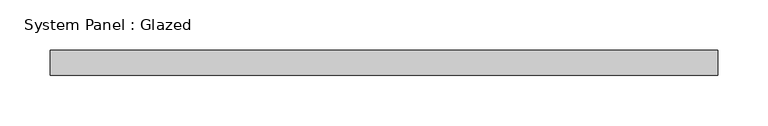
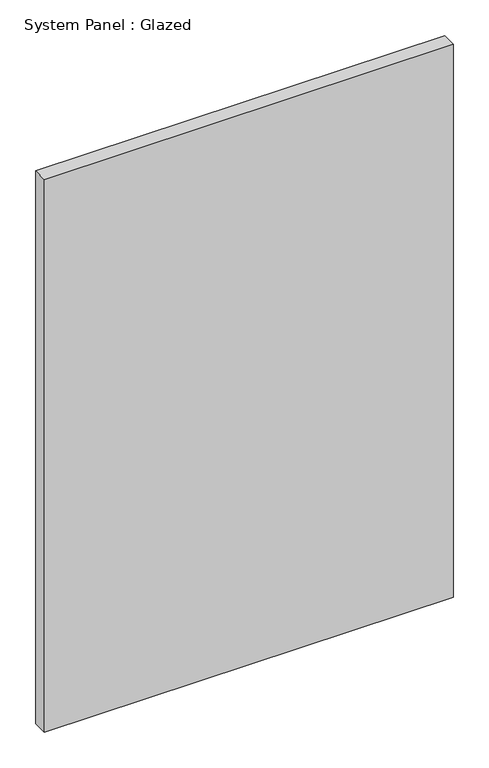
"""IFC4 building model written with IfcOpenShell, lengths in millimetres: plate geometry, System Panel : Glazed."""

from ifc_helpers import new_model, si_unit, origin, origin_with_axes, place, context, project, spatial, polyline, outline, extrude, source, transform, mapped, element, save


def system_panel_glazed_d356d63c(model_context):
    return source(origin(), model_context, "Body", "SweptSolid", [
        extrude(outline(polyline([(332.5, 24.5), (-332.5, 24.5), (-332.5, 49.5), (332.5, 49.5), (332.5, 24.5)])), origin_with_axes(), (0.0, 0.0, 1.0), 950.0),
    ])


if __name__ == "__main__":
    model = new_model("IFC4")
    model_context = context("Model", 3, world=origin())
    ifc_project = project(units=[si_unit("LENGTHUNIT", "METRE", prefix="MILLI")], contexts=[model_context])
    site = spatial("IfcSite", under=ifc_project)
    building = spatial("IfcBuilding", under=site)
    placement = place(None, origin())
    system_panel_glazed_shape = system_panel_glazed_d356d63c(model_context)
    element("IfcPlate", 1, ObjectType="System Panel : Glazed", at=placement, inside=building, context=model_context, shape_type="MappedRepresentation", body=[
        mapped(system_panel_glazed_shape, transform((0.0, 0.0, 0.0), x_axis=(1.0, 0.0, 0.0), y_axis=(0.0, 1.0, 0.0), z_axis=(0.0, 0.0, 1.0))),
    ])
    save(model, "model.ifc")
